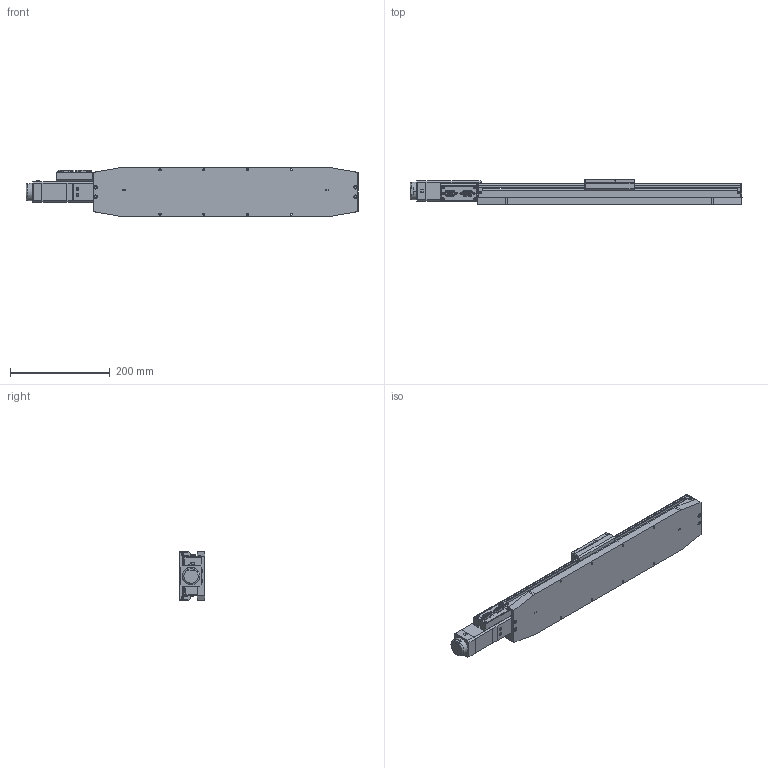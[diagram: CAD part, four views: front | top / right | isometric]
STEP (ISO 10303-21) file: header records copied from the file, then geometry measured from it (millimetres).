
FILE_DESCRIPTION (( 'STEP AP214' ), '1' );
FILE_NAME ('L3500.400-STC_v2_20180822.STEP', '2018-08-22T11:28:37', ( '' ), ( '' ), 'SwSTEP 2.0', 'SolidWorks 2017', '' );
FILE_SCHEMA (( 'AUTOMOTIVE_DESIGN' ));
Length unit declared in the file: millimetre
Products named in the file (1): L3500.400-STC_v2_20180822
Bounding box: 664.85 x 51.67 x 99.06 mm (x, y, z)
Volume: 1429333.1 mm3; surface area: 452613.9 mm2
Topology: 47 solids, 47 shells, 2772 faces, 7004 edges, 4448 vertices
Faces by surface type: plane 1306, cylinder 1142, cone 233, bspline 71, torus 20
Entity records: 86015 total; most frequent: CARTESIAN_POINT 17722, DIRECTION 14431, ORIENTED_EDGE 13688, EDGE_CURVE 6844, AXIS2_PLACEMENT_3D 5116, VERTEX_POINT 4448, VECTOR 4199, LINE 4199
